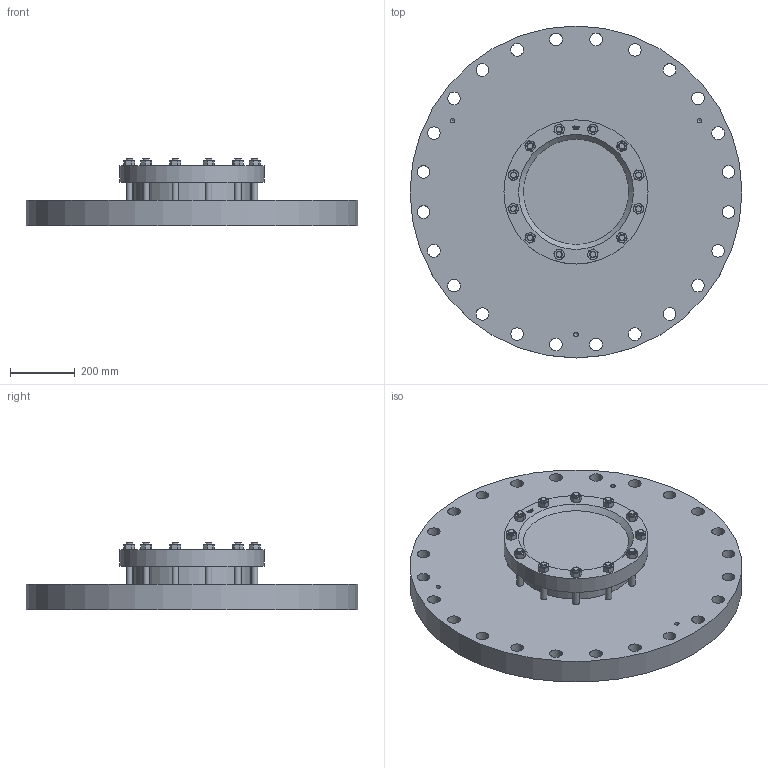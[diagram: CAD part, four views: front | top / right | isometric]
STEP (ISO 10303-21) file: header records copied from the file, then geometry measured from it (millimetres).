
FILE_DESCRIPTION(/* description */ (''),/* implementation_level */ '2;1');
FILE_NAME(/* name */ 'W:\Konstruktion_ACI\325\_STEP\325-800-16.stp',/* time_stamp */ '2022-03-02T17:33:02+01:00',/* author */ ('koslowksi'),/* organization */ (''),/* preprocessor_version */ 'ST-DEVELOPER v16.1',/* originating_system */ 'Autodesk Inventor 2016',/* authorisation */ '');
FILE_SCHEMA (('AUTOMOTIVE_DESIGN { 1 0 10303 214 3 1 1 }'));
Length unit declared in the file: millimetre
Products named in the file (1): 325-800-16
Bounding box: 1025 x 1025 x 209 mm (x, y, z)
Volume: 75528133.9 mm3; surface area: 2394495.2 mm2
Topology: 1 solids, 1 shells, 553 faces, 1392 edges, 887 vertices
Faces by surface type: plane 231, cone 160, bspline 108, cylinder 54
Full cylindrical faces by diameter (mm): 13.835 x3, 20 x24, 39 x24, 359 x1, 445 x1, 1025 x1
Entity records: 16694 total; most frequent: CARTESIAN_POINT 4665, ORIENTED_EDGE 2566, DIRECTION 1937, EDGE_CURVE 1283, VERTEX_POINT 848, EDGE_LOOP 741, AXIS2_PLACEMENT_3D 712, STYLED_ITEM 553
